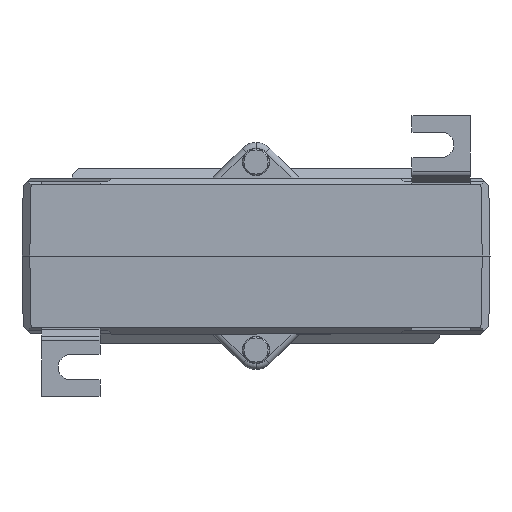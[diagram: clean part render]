
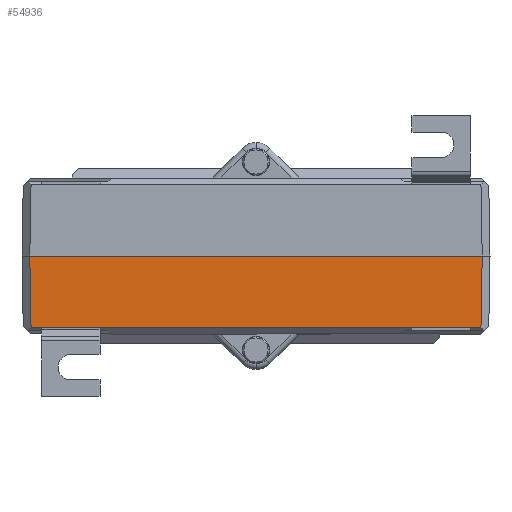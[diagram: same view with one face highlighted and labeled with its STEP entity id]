
A CAD part, front view. The second image highlights one B-rep face of the part: STEP entity #54936.
In plain terms, the highlighted planar face has unit normal (0, -1, -0.018) as drawn and (0, -1, 0.017) by its records, which use the part's own axes.
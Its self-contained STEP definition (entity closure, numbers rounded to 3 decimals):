
#2474 = CARTESIAN_POINT ( 'NONE',  ( -57.999, -58.5, 0. ) ) ;
#2571 = CARTESIAN_POINT ( 'NONE',  ( 58., -58.5, 0. ) ) ;
#2572 = DIRECTION ( 'NONE',  ( 1., 0., 0. ) ) ;
#2573 = VECTOR ( 'NONE', #2572, 1000. ) ;
#2574 = CARTESIAN_POINT ( 'NONE',  ( 60., -58.5, 0. ) ) ;
#2575 = LINE ( 'NONE', #2574, #2573 ) ;
#2994 = DIRECTION ( 'NONE',  ( -1., 0., 0. ) ) ;
#2995 = VECTOR ( 'NONE', #2994, 1000. ) ;
#2996 = CARTESIAN_POINT ( 'NONE',  ( -47.5, -58.18, 18.32 ) ) ;
#2999 = LINE ( 'NONE', #2996, #2995 ) ;
#3037 = CARTESIAN_POINT ( 'NONE',  ( -57.679, -58.18, 18.32 ) ) ;
#3047 = CARTESIAN_POINT ( 'NONE',  ( 57.68, -58.18, 18.32 ) ) ;
#3578 = DIRECTION ( 'NONE',  ( 0., -1., 0.017 ) ) ;
#3612 = DIRECTION ( 'NONE',  ( 0., -0.017, -1. ) ) ;
#3617 = AXIS2_PLACEMENT_3D ( 'NONE', #3642, #3578, #3612 ) ;
#3618 = DIRECTION ( 'NONE',  ( -0.017, -0.017, -1. ) ) ;
#3619 = VECTOR ( 'NONE', #3618, 1000. ) ;
#3620 = CARTESIAN_POINT ( 'NONE',  ( -57.963, -58.464, 2.058 ) ) ;
#3621 = LINE ( 'NONE', #3620, #3619 ) ;
#3623 = FACE_OUTER_BOUND ( 'NONE', #55053, .T. ) ;
#3625 = PLANE ( 'NONE',  #3617 ) ;
#3638 = DIRECTION ( 'NONE',  ( -0.017, 0.017, 1. ) ) ;
#3639 = VECTOR ( 'NONE', #3638, 1000. ) ;
#3640 = CARTESIAN_POINT ( 'NONE',  ( 58., -58.501, -0.035 ) ) ;
#3641 = LINE ( 'NONE', #3640, #3639 ) ;
#3642 = CARTESIAN_POINT ( 'NONE',  ( 60., -58.5, 0. ) ) ;
#53877 = VERTEX_POINT ( 'NONE', #2474 ) ;
#53961 = EDGE_CURVE ( 'NONE', #53877, #53964, #2575, .T. ) ;
#53964 = VERTEX_POINT ( 'NONE', #2571 ) ;
#54353 = EDGE_CURVE ( 'NONE', #54391, #54393, #2999, .T. ) ;
#54391 = VERTEX_POINT ( 'NONE', #3047 ) ;
#54393 = VERTEX_POINT ( 'NONE', #3037 ) ;
#54925 = ORIENTED_EDGE ( 'NONE', *, *, #53961, .T. ) ;
#54929 = EDGE_CURVE ( 'NONE', #53964, #54391, #3641, .T. ) ;
#54933 = EDGE_CURVE ( 'NONE', #54393, #53877, #3621, .T. ) ;
#54936 = ADVANCED_FACE ( 'NONE', ( #3623 ), #3625, .T. ) ;
#54958 = ORIENTED_EDGE ( 'NONE', *, *, #54933, .T. ) ;
#55024 = ORIENTED_EDGE ( 'NONE', *, *, #54929, .T. ) ;
#55042 = ORIENTED_EDGE ( 'NONE', *, *, #54353, .T. ) ;
#55053 = EDGE_LOOP ( 'NONE', ( #55042, #54958, #54925, #55024 ) ) ;
